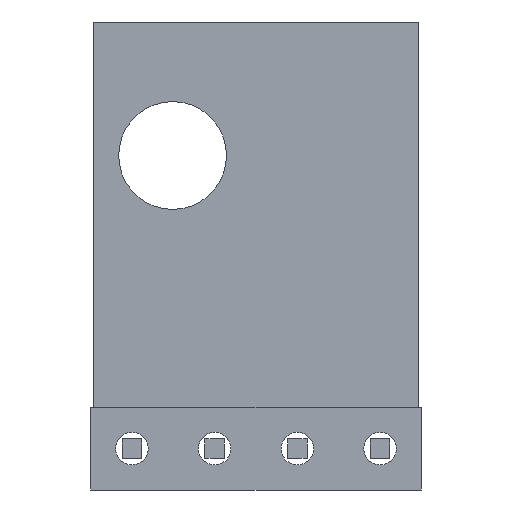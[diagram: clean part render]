
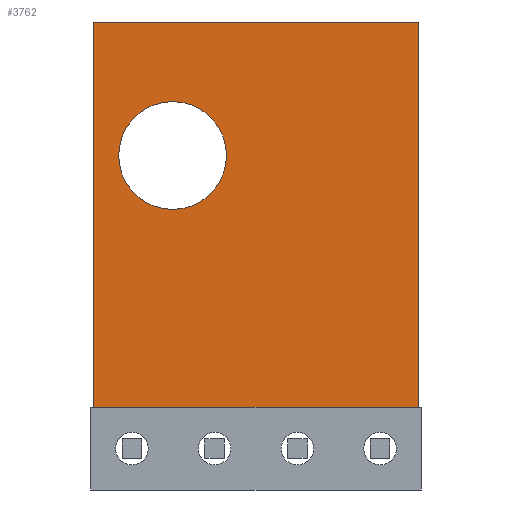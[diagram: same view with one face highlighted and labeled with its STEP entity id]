
A CAD part, front view. The second image highlights one B-rep face of the part: STEP entity #3762.
In plain terms, the highlighted planar face has unit normal (0, -1, 0).
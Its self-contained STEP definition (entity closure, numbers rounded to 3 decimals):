
#103=CIRCLE('',#3968,1.655);
#104=CIRCLE('',#3970,0.5);
#106=CIRCLE('',#3973,0.5);
#108=CIRCLE('',#3976,0.5);
#110=CIRCLE('',#3979,0.5);
#146=FACE_BOUND('',#695,.T.);
#147=FACE_BOUND('',#696,.T.);
#148=FACE_BOUND('',#697,.T.);
#149=FACE_BOUND('',#698,.T.);
#150=FACE_BOUND('',#699,.T.);
#453=FACE_OUTER_BOUND('',#694,.T.);
#694=EDGE_LOOP('',(#3323,#3324,#3325,#3326));
#695=EDGE_LOOP('',(#3327));
#696=EDGE_LOOP('',(#3328));
#697=EDGE_LOOP('',(#3329));
#698=EDGE_LOOP('',(#3330));
#699=EDGE_LOOP('',(#3331));
#1072=LINE('',#6438,#1478);
#1075=LINE('',#6444,#1481);
#1078=LINE('',#6450,#1484);
#1081=LINE('',#6454,#1487);
#1478=VECTOR('',#4697,10.);
#1481=VECTOR('',#4702,10.);
#1484=VECTOR('',#4707,10.);
#1487=VECTOR('',#4712,10.);
#1831=VERTEX_POINT('',#6404);
#1832=VERTEX_POINT('',#6408);
#1834=VERTEX_POINT('',#6414);
#1836=VERTEX_POINT('',#6420);
#1838=VERTEX_POINT('',#6426);
#1842=VERTEX_POINT('',#6435);
#1843=VERTEX_POINT('',#6437);
#1845=VERTEX_POINT('',#6443);
#1847=VERTEX_POINT('',#6449);
#2323=EDGE_CURVE('',#1831,#1831,#103,.T.);
#2324=EDGE_CURVE('',#1832,#1832,#104,.T.);
#2327=EDGE_CURVE('',#1834,#1834,#106,.T.);
#2330=EDGE_CURVE('',#1836,#1836,#108,.T.);
#2333=EDGE_CURVE('',#1838,#1838,#110,.T.);
#2338=EDGE_CURVE('',#1843,#1842,#1072,.T.);
#2341=EDGE_CURVE('',#1845,#1843,#1075,.T.);
#2344=EDGE_CURVE('',#1847,#1845,#1078,.T.);
#2347=EDGE_CURVE('',#1842,#1847,#1081,.T.);
#3323=ORIENTED_EDGE('',*,*,#2347,.T.);
#3324=ORIENTED_EDGE('',*,*,#2344,.T.);
#3325=ORIENTED_EDGE('',*,*,#2341,.T.);
#3326=ORIENTED_EDGE('',*,*,#2338,.T.);
#3327=ORIENTED_EDGE('',*,*,#2323,.T.);
#3328=ORIENTED_EDGE('',*,*,#2333,.T.);
#3329=ORIENTED_EDGE('',*,*,#2330,.T.);
#3330=ORIENTED_EDGE('',*,*,#2327,.T.);
#3331=ORIENTED_EDGE('',*,*,#2324,.T.);
#3555=PLANE('',#3986);
#3762=ADVANCED_FACE('',(#453,#146,#147,#148,#149,#150),#3555,.F.);
#3968=AXIS2_PLACEMENT_3D('',#6406,#4663,#4664);
#3970=AXIS2_PLACEMENT_3D('',#6409,#4667,#4668);
#3973=AXIS2_PLACEMENT_3D('',#6415,#4674,#4675);
#3976=AXIS2_PLACEMENT_3D('',#6421,#4681,#4682);
#3979=AXIS2_PLACEMENT_3D('',#6427,#4688,#4689);
#3986=AXIS2_PLACEMENT_3D('',#6456,#4715,#4716);
#4663=DIRECTION('center_axis',(0.,1.,0.));
#4664=DIRECTION('ref_axis',(1.,0.,0.));
#4667=DIRECTION('center_axis',(0.,1.,0.));
#4668=DIRECTION('ref_axis',(1.,0.,0.));
#4674=DIRECTION('center_axis',(0.,1.,0.));
#4675=DIRECTION('ref_axis',(1.,0.,0.));
#4681=DIRECTION('center_axis',(0.,1.,0.));
#4682=DIRECTION('ref_axis',(1.,0.,0.));
#4688=DIRECTION('center_axis',(0.,1.,0.));
#4689=DIRECTION('ref_axis',(1.,0.,0.));
#4697=DIRECTION('',(0.,0.,1.));
#4702=DIRECTION('',(1.,0.,0.));
#4707=DIRECTION('',(0.,0.,-1.));
#4712=DIRECTION('',(-1.,0.,0.));
#4715=DIRECTION('center_axis',(0.,1.,0.));
#4716=DIRECTION('ref_axis',(1.,0.,0.));
#6404=CARTESIAN_POINT('',(-4.655,-1.6,1.5));
#6406=CARTESIAN_POINT('Origin',(-3.,-1.6,1.5));
#6408=CARTESIAN_POINT('',(2.87,-1.6,-7.5));
#6409=CARTESIAN_POINT('Origin',(3.37,-1.6,-7.5));
#6414=CARTESIAN_POINT('',(-4.75,-1.6,-7.5));
#6415=CARTESIAN_POINT('Origin',(-4.25,-1.6,-7.5));
#6420=CARTESIAN_POINT('',(-2.21,-1.6,-7.5));
#6421=CARTESIAN_POINT('Origin',(-1.71,-1.6,-7.5));
#6426=CARTESIAN_POINT('',(0.33,-1.6,-7.5));
#6427=CARTESIAN_POINT('Origin',(0.83,-1.6,-7.5));
#6435=CARTESIAN_POINT('',(4.56,-1.6,5.6));
#6437=CARTESIAN_POINT('',(4.56,-1.6,-8.69));
#6438=CARTESIAN_POINT('',(4.56,-1.6,-8.69));
#6443=CARTESIAN_POINT('',(-5.44,-1.6,-8.69));
#6444=CARTESIAN_POINT('',(-5.44,-1.6,-8.69));
#6449=CARTESIAN_POINT('',(-5.44,-1.6,5.6));
#6450=CARTESIAN_POINT('',(-5.44,-1.6,5.6));
#6454=CARTESIAN_POINT('',(4.56,-1.6,5.6));
#6456=CARTESIAN_POINT('Origin',(-0.44,-1.6,-1.545));
